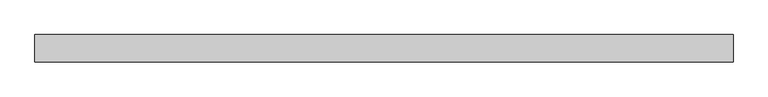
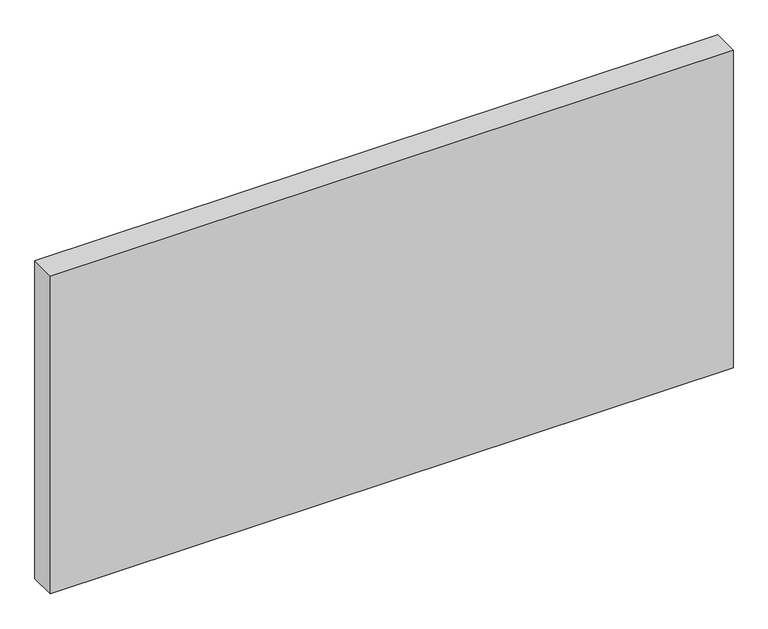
"""IFC4 building model written with IfcOpenShell, lengths in millimetres: plate geometry, 系统嵌板 : 玻璃."""

from ifc_helpers import new_model, si_unit, origin, origin_with_axes, place, context, project, spatial, polyline, outline, extrude, source, transform, mapped, element, save


def plate_77a94082(model_context):
    return source(origin(), model_context, "Body", "SweptSolid", [
        extrude(outline(polyline([(762.5, -30.0), (-762.5, -30.0), (-762.5, 30.0), (762.5, 30.0), (762.5, -30.0)])), origin_with_axes(), (0.0, 0.0, 1.0), 750.0),
    ])


if __name__ == "__main__":
    model = new_model("IFC4")
    model_context = context("Model", 3, world=origin())
    ifc_project = project(units=[si_unit("LENGTHUNIT", "METRE", prefix="MILLI")], contexts=[model_context])
    site = spatial("IfcSite", under=ifc_project)
    building = spatial("IfcBuilding", under=site)
    placement = place(None, origin())
    plate_shape = plate_77a94082(model_context)
    element("IfcPlate", 1, ObjectType="系统嵌板 : 玻璃", at=placement, inside=building, context=model_context, shape_type="MappedRepresentation", body=[
        mapped(plate_shape, transform((0.0, 0.0, 0.0), x_axis=(1.0, 0.0, 0.0), y_axis=(0.0, 1.0, 0.0), z_axis=(0.0, 0.0, 1.0))),
    ])
    save(model, "model.ifc")
